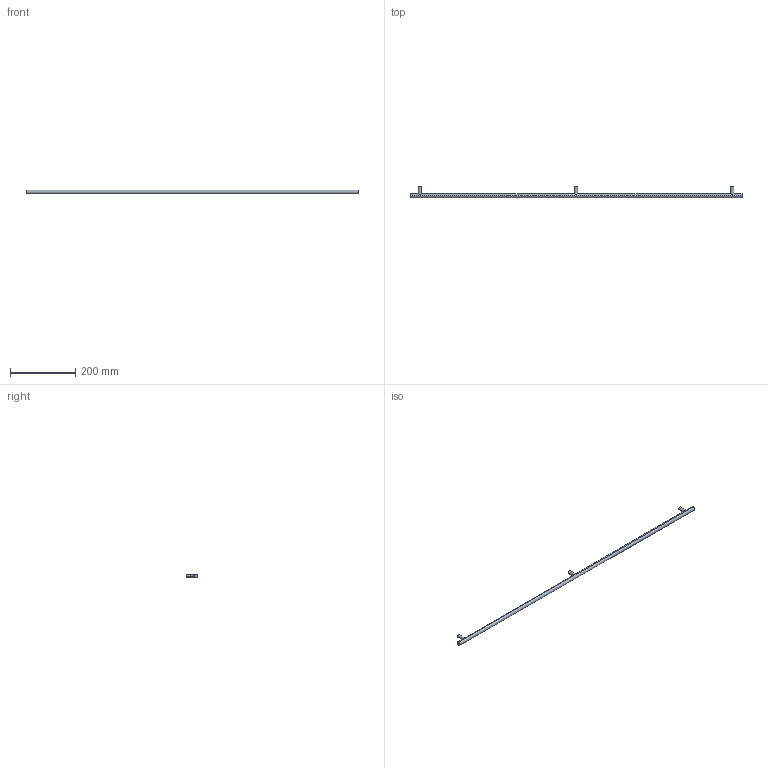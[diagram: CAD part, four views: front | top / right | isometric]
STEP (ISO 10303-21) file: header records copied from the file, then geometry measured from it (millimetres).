
FILE_DESCRIPTION( ( '' ), '1' );
FILE_NAME( 'D:/1.AUTOCAD EXPORT/Group 10/sheet_10_1/9071041.stp', '2013-10-21T09:18:16', ( '' ), ( '' ), ' ', ' ', ' ' );
FILE_SCHEMA( ( 'automotive_design' ) );
Length unit declared in the file: millimetre
Products named in the file (1): 1
Bounding box: 1020 x 35 x 12 mm (x, y, z)
Volume: 120463 mm3; surface area: 41387.3 mm2
Topology: 1 solids, 1 shells, 22 faces, 45 edges, 31 vertices
Faces by surface type: cylinder 14, plane 8
Entity records: 1358 total; most frequent: CARTESIAN_POINT 300, DIRECTION 104, STYLED_ITEM 99, PRESENTATION_STYLE_ASSIGNMENT 99, COLOUR_RGB 99, ORIENTED_EDGE 90, EDGE_CURVE 45, AXIS2_PLACEMENT_3D 45
